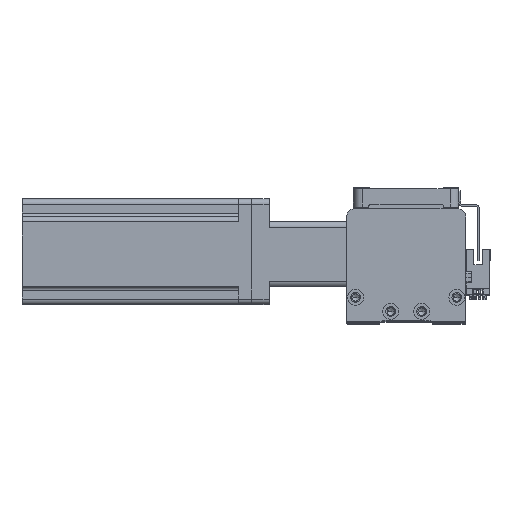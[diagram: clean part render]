
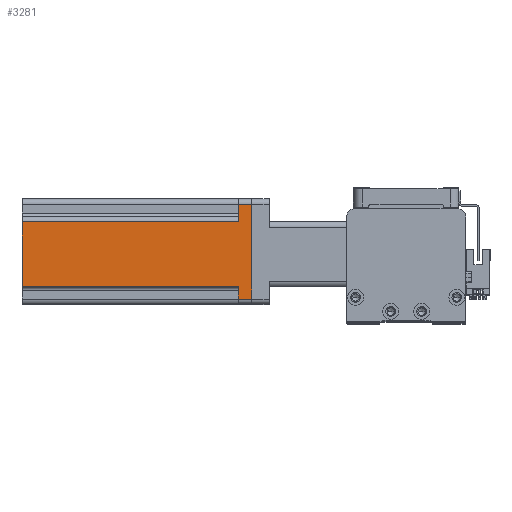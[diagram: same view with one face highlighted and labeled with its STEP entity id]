
A CAD part, top view. The second image highlights one B-rep face of the part: STEP entity #3281.
In plain terms, the highlighted planar face has unit normal (0, 0, 1) as drawn and (-1, 0, 0) by its records, which use the part's own axes.
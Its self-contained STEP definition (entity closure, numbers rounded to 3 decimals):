
#173 = EDGE_CURVE ( 'NONE', #12115, #27574, #40672, .T. ) ;
#230 = EDGE_CURVE ( 'NONE', #29979, #18379, #21813, .T. ) ;
#407 = LINE ( 'NONE', #40821, #24736 ) ;
#1020 = VECTOR ( 'NONE', #27105, 1000. ) ;
#1040 = EDGE_CURVE ( 'NONE', #36064, #37646, #34770, .T. ) ;
#2009 = VECTOR ( 'NONE', #33062, 1000. ) ;
#2354 = ORIENTED_EDGE ( 'NONE', *, *, #25394, .T. ) ;
#3281 = ADVANCED_FACE ( 'NONE', ( #7333 ), #7670, .F. ) ;
#4154 = DIRECTION ( 'NONE',  ( 0., 0., -1. ) ) ;
#4627 = VECTOR ( 'NONE', #14770, 1000. ) ;
#5166 = VECTOR ( 'NONE', #4154, 1000. ) ;
#5383 = EDGE_CURVE ( 'NONE', #16664, #12115, #37913, .T. ) ;
#5840 = DIRECTION ( 'NONE',  ( 0., 1., 0. ) ) ;
#5955 = VECTOR ( 'NONE', #13769, 1000. ) ;
#6632 = CARTESIAN_POINT ( 'NONE',  ( -30., -17., 7.5 ) ) ;
#7333 = FACE_OUTER_BOUND ( 'NONE', #35244, .T. ) ;
#7670 = PLANE ( 'NONE',  #10043 ) ;
#7818 = DIRECTION ( 'NONE',  ( 1., 0., 0. ) ) ;
#8087 = DIRECTION ( 'NONE',  ( 0., 0., 1. ) ) ;
#9330 = ORIENTED_EDGE ( 'NONE', *, *, #11220, .F. ) ;
#10043 = AXIS2_PLACEMENT_3D ( 'NONE', #26871, #7818, #30010 ) ;
#10542 = ORIENTED_EDGE ( 'NONE', *, *, #24459, .T. ) ;
#11220 = EDGE_CURVE ( 'NONE', #18379, #13739, #407, .T. ) ;
#12115 = VERTEX_POINT ( 'NONE', #26812 ) ;
#13123 = CARTESIAN_POINT ( 'NONE',  ( -30., 20., 7.5 ) ) ;
#13302 = CARTESIAN_POINT ( 'NONE',  ( -30., 20., 130.7 ) ) ;
#13305 = ORIENTED_EDGE ( 'NONE', *, *, #5383, .T. ) ;
#13739 = VERTEX_POINT ( 'NONE', #15704 ) ;
#13769 = DIRECTION ( 'NONE',  ( 0., -1., 0. ) ) ;
#14255 = CARTESIAN_POINT ( 'NONE',  ( -30., -27., 0. ) ) ;
#14770 = DIRECTION ( 'NONE',  ( 0., 0., 1. ) ) ;
#15704 = CARTESIAN_POINT ( 'NONE',  ( -30., -17., 130.7 ) ) ;
#15896 = CARTESIAN_POINT ( 'NONE',  ( -30., -27., 7.5 ) ) ;
#16664 = VERTEX_POINT ( 'NONE', #24844 ) ;
#17698 = ORIENTED_EDGE ( 'NONE', *, *, #230, .F. ) ;
#18379 = VERTEX_POINT ( 'NONE', #13302 ) ;
#19203 = LINE ( 'NONE', #24842, #26672 ) ;
#19311 = EDGE_CURVE ( 'NONE', #36064, #13739, #30941, .T. ) ;
#21813 = LINE ( 'NONE', #39446, #2009 ) ;
#24459 = EDGE_CURVE ( 'NONE', #29979, #16664, #19203, .T. ) ;
#24736 = VECTOR ( 'NONE', #25047, 1000. ) ;
#24842 = CARTESIAN_POINT ( 'NONE',  ( -30., 30., 7.5 ) ) ;
#24844 = CARTESIAN_POINT ( 'NONE',  ( -30., 27., 7.5 ) ) ;
#25047 = DIRECTION ( 'NONE',  ( 0., -1., 0. ) ) ;
#25394 = EDGE_CURVE ( 'NONE', #27574, #37646, #28037, .T. ) ;
#26005 = VECTOR ( 'NONE', #8087, 1000. ) ;
#26142 = ORIENTED_EDGE ( 'NONE', *, *, #19311, .T. ) ;
#26672 = VECTOR ( 'NONE', #5840, 1000. ) ;
#26812 = CARTESIAN_POINT ( 'NONE',  ( -30., 27., 0. ) ) ;
#26871 = CARTESIAN_POINT ( 'NONE',  ( -30., -30., 130.7 ) ) ;
#27105 = DIRECTION ( 'NONE',  ( 0., -1., 0. ) ) ;
#27574 = VERTEX_POINT ( 'NONE', #14255 ) ;
#28037 = LINE ( 'NONE', #33495, #26005 ) ;
#29979 = VERTEX_POINT ( 'NONE', #13123 ) ;
#30010 = DIRECTION ( 'NONE',  ( 0., 0., -1. ) ) ;
#30941 = LINE ( 'NONE', #36980, #4627 ) ;
#33062 = DIRECTION ( 'NONE',  ( 0., 0., 1. ) ) ;
#33420 = CARTESIAN_POINT ( 'NONE',  ( -30., -30., 7.5 ) ) ;
#33495 = CARTESIAN_POINT ( 'NONE',  ( -30., -27., 130.7 ) ) ;
#33639 = ORIENTED_EDGE ( 'NONE', *, *, #1040, .F. ) ;
#34770 = LINE ( 'NONE', #33420, #1020 ) ;
#35244 = EDGE_LOOP ( 'NONE', ( #33639, #26142, #9330, #17698, #10542, #13305, #36731, #2354 ) ) ;
#35989 = CARTESIAN_POINT ( 'NONE',  ( -30., -30., 0. ) ) ;
#36064 = VERTEX_POINT ( 'NONE', #6632 ) ;
#36731 = ORIENTED_EDGE ( 'NONE', *, *, #173, .T. ) ;
#36980 = CARTESIAN_POINT ( 'NONE',  ( -30., -17., 130.7 ) ) ;
#37646 = VERTEX_POINT ( 'NONE', #15896 ) ;
#37913 = LINE ( 'NONE', #39250, #5166 ) ;
#39250 = CARTESIAN_POINT ( 'NONE',  ( -30., 27., 130.7 ) ) ;
#39446 = CARTESIAN_POINT ( 'NONE',  ( -30., 20., 7.5 ) ) ;
#40672 = LINE ( 'NONE', #35989, #5955 ) ;
#40821 = CARTESIAN_POINT ( 'NONE',  ( -30., -30., 130.7 ) ) ;
